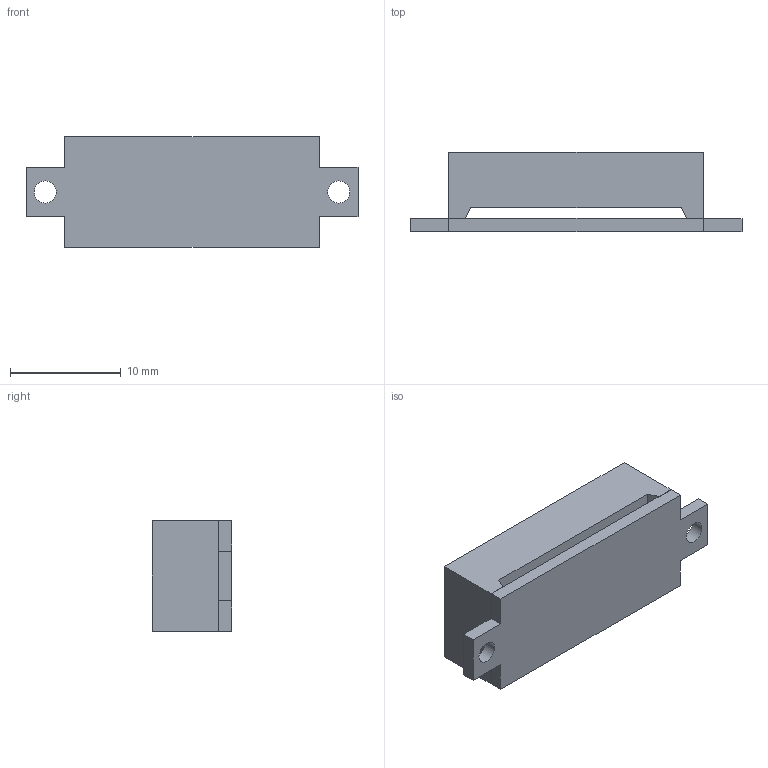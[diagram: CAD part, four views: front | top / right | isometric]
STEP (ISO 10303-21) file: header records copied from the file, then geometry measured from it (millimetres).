
FILE_DESCRIPTION(('FreeCAD Model'),'2;1');
FILE_NAME('Open CASCADE Shape Model','2023-05-06T18:44:57',('Author'),( ''),'Open CASCADE STEP processor 7.5','FreeCAD','Unknown');
FILE_SCHEMA(('AUTOMOTIVE_DESIGN { 1 0 10303 214 1 1 1 1 }'));
Length unit declared in the file: millimetre
Products named in the file (1): LCD display_888 10x23mm
Bounding box: 30 x 7.2 x 10 mm (x, y, z)
Volume: 1491.3 mm3; surface area: 1450.9 mm2
Topology: 2 solids, 2 shells, 26 faces, 66 edges, 44 vertices
Faces by surface type: plane 24, cylinder 2
Full cylindrical faces by diameter (mm): 2 x2
Entity records: 881 total; most frequent: CARTESIAN_POINT 135, ORIENTED_EDGE 128, DIRECTION 122, EDGE_CURVE 64, LINE 60, VECTOR 60, VERTEX_POINT 44, EDGE_LOOP 32
